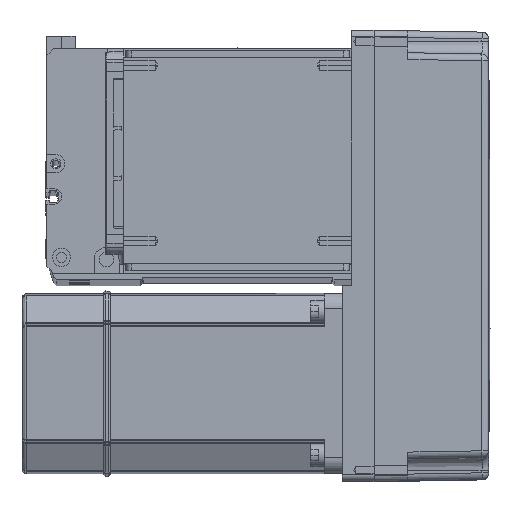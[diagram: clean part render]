
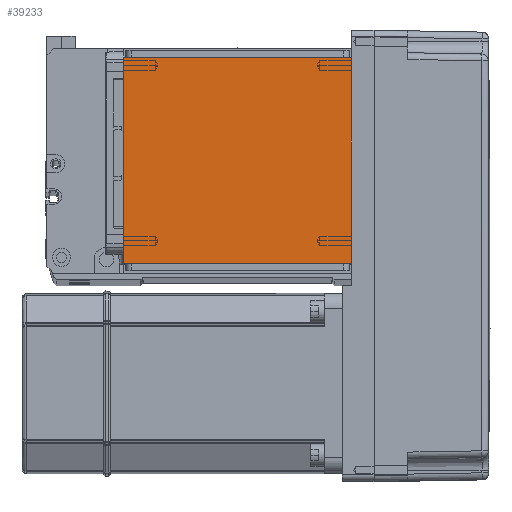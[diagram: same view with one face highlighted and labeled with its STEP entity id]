
A CAD part, top view. The second image highlights one B-rep face of the part: STEP entity #39233.
In plain terms, the highlighted planar face has unit normal (0, 0, 1).
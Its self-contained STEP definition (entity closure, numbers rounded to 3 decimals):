
#572 = EDGE_CURVE ( 'NONE', #33565, #2357, #46937, .T. ) ;
#842 = VECTOR ( 'NONE', #13948, 1000. ) ;
#2153 = PLANE ( 'NONE',  #33965 ) ;
#2357 = VERTEX_POINT ( 'NONE', #53543 ) ;
#3961 = CARTESIAN_POINT ( 'NONE',  ( -50.5, 111.5, 115. ) ) ;
#5586 = CARTESIAN_POINT ( 'NONE',  ( -70.004, 111.5, 115. ) ) ;
#6648 = DIRECTION ( 'NONE',  ( -1., 0., 0. ) ) ;
#6921 = VERTEX_POINT ( 'NONE', #3961 ) ;
#7028 = CARTESIAN_POINT ( 'NONE',  ( 0., 0., 115. ) ) ;
#12360 = EDGE_CURVE ( 'NONE', #6921, #21380, #34159, .T. ) ;
#13948 = DIRECTION ( 'NONE',  ( 0., -1., 0. ) ) ;
#17616 = CARTESIAN_POINT ( 'NONE',  ( 50.5, 20., 115. ) ) ;
#18292 = EDGE_CURVE ( 'NONE', #33565, #21380, #28246, .T. ) ;
#21380 = VERTEX_POINT ( 'NONE', #24227 ) ;
#23871 = ORIENTED_EDGE ( 'NONE', *, *, #18292, .T. ) ;
#24227 = CARTESIAN_POINT ( 'NONE',  ( 50.5, 111.5, 115. ) ) ;
#24648 = EDGE_CURVE ( 'NONE', #6921, #2357, #54767, .T. ) ;
#25917 = DIRECTION ( 'NONE',  ( 0., 0., 1. ) ) ;
#28097 = ORIENTED_EDGE ( 'NONE', *, *, #24648, .T. ) ;
#28246 = LINE ( 'NONE', #57059, #41099 ) ;
#29193 = DIRECTION ( 'NONE',  ( 0., 1., 0. ) ) ;
#30618 = VECTOR ( 'NONE', #56573, 1000. ) ;
#33565 = VERTEX_POINT ( 'NONE', #17616 ) ;
#33965 = AXIS2_PLACEMENT_3D ( 'NONE', #7028, #25917, #44330 ) ;
#34159 = LINE ( 'NONE', #5586, #30618 ) ;
#34731 = VECTOR ( 'NONE', #6648, 1000. ) ;
#36028 = EDGE_LOOP ( 'NONE', ( #45598, #28097, #52636, #23871 ) ) ;
#36617 = FACE_OUTER_BOUND ( 'NONE', #36028, .T. ) ;
#39233 = ADVANCED_FACE ( 'NONE', ( #36617 ), #2153, .T. ) ;
#41099 = VECTOR ( 'NONE', #29193, 1000. ) ;
#44330 = DIRECTION ( 'NONE',  ( 1., 0., 0. ) ) ;
#45598 = ORIENTED_EDGE ( 'NONE', *, *, #12360, .F. ) ;
#46003 = CARTESIAN_POINT ( 'NONE',  ( -50.5, 122., 115. ) ) ;
#46937 = LINE ( 'NONE', #47586, #34731 ) ;
#47586 = CARTESIAN_POINT ( 'NONE',  ( -70.004, 20., 115. ) ) ;
#52636 = ORIENTED_EDGE ( 'NONE', *, *, #572, .F. ) ;
#53543 = CARTESIAN_POINT ( 'NONE',  ( -50.5, 20., 115. ) ) ;
#54767 = LINE ( 'NONE', #46003, #842 ) ;
#56573 = DIRECTION ( 'NONE',  ( 1., 0., 0. ) ) ;
#57059 = CARTESIAN_POINT ( 'NONE',  ( 50.5, 122., 115. ) ) ;
